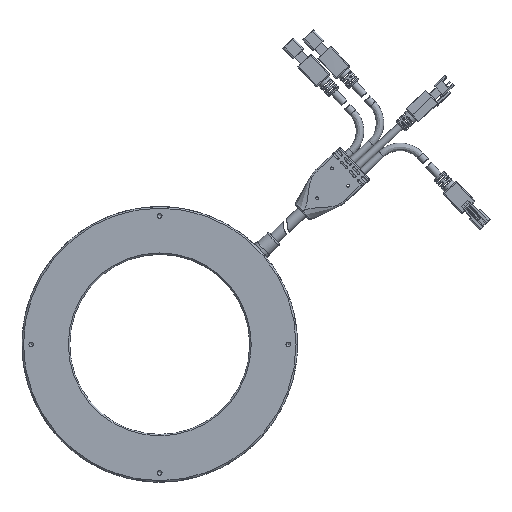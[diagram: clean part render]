
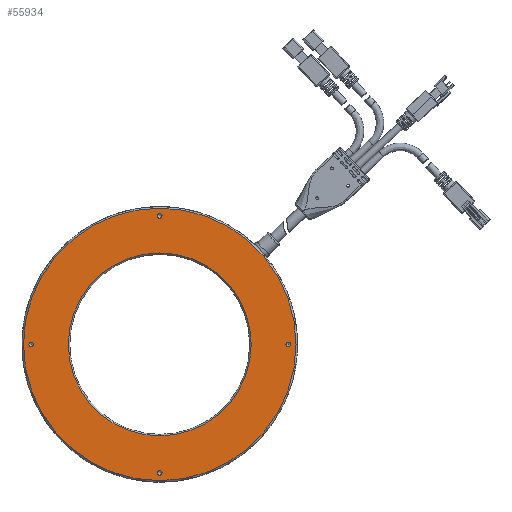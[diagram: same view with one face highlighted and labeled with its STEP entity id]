
A CAD part, front view. The second image highlights one B-rep face of the part: STEP entity #55934.
In plain terms, the highlighted planar face has unit normal (0, -1, 0).
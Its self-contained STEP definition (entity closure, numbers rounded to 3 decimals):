
#693 = EDGE_CURVE ( 'NONE', #61860, #61860, #21669, .T. ) ;
#1366 = CARTESIAN_POINT ( 'NONE',  ( 0., -2.106, 70. ) ) ;
#1378 = CARTESIAN_POINT ( 'NONE',  ( 0., -2.106, 74.2 ) ) ;
#1472 = AXIS2_PLACEMENT_3D ( 'NONE', #38636, #18361, #43281 ) ;
#1785 = ORIENTED_EDGE ( 'NONE', *, *, #56272, .F. ) ;
#2494 = DIRECTION ( 'NONE',  ( 0., 0., 1. ) ) ;
#3828 = DIRECTION ( 'NONE',  ( 0., 0., 1. ) ) ;
#3969 = CARTESIAN_POINT ( 'NONE',  ( -70., -2.106, 0. ) ) ;
#5893 = AXIS2_PLACEMENT_3D ( 'NONE', #7806, #17547, #2494 ) ;
#6484 = DIRECTION ( 'NONE',  ( 0., 0., -1. ) ) ;
#7806 = CARTESIAN_POINT ( 'NONE',  ( 0., -2.106, 0. ) ) ;
#7991 = VERTEX_POINT ( 'NONE', #1378 ) ;
#9521 = VERTEX_POINT ( 'NONE', #42461 ) ;
#9920 = DIRECTION ( 'NONE',  ( 0., -1., 0. ) ) ;
#10371 = AXIS2_PLACEMENT_3D ( 'NONE', #19661, #9920, #49464 ) ;
#11687 = EDGE_LOOP ( 'NONE', ( #18193 ) ) ;
#13071 = DIRECTION ( 'NONE',  ( 0., -1., 0. ) ) ;
#15178 = EDGE_LOOP ( 'NONE', ( #31815 ) ) ;
#15848 = AXIS2_PLACEMENT_3D ( 'NONE', #1366, #36738, #6484 ) ;
#17547 = DIRECTION ( 'NONE',  ( 0., 1., 0. ) ) ;
#17999 = ORIENTED_EDGE ( 'NONE', *, *, #32554, .F. ) ;
#18193 = ORIENTED_EDGE ( 'NONE', *, *, #34222, .T. ) ;
#18361 = DIRECTION ( 'NONE',  ( 0., -1., 0. ) ) ;
#18543 = EDGE_LOOP ( 'NONE', ( #1785 ) ) ;
#18618 = DIRECTION ( 'NONE',  ( 0., -1., 0. ) ) ;
#18749 = AXIS2_PLACEMENT_3D ( 'NONE', #54044, #38982, #3828 ) ;
#19508 = CIRCLE ( 'NONE', #5893, 49.8 ) ;
#19661 = CARTESIAN_POINT ( 'NONE',  ( 0., -2.106, 0. ) ) ;
#21669 = CIRCLE ( 'NONE', #44052, 1.25 ) ;
#22183 = ORIENTED_EDGE ( 'NONE', *, *, #39392, .T. ) ;
#23406 = CIRCLE ( 'NONE', #15848, 1.25 ) ;
#24007 = PLANE ( 'NONE',  #18749 ) ;
#25804 = AXIS2_PLACEMENT_3D ( 'NONE', #43305, #13071, #48407 ) ;
#27402 = FACE_BOUND ( 'NONE', #46505, .T. ) ;
#29295 = VERTEX_POINT ( 'NONE', #32994 ) ;
#31815 = ORIENTED_EDGE ( 'NONE', *, *, #693, .F. ) ;
#32311 = EDGE_LOOP ( 'NONE', ( #17999 ) ) ;
#32554 = EDGE_CURVE ( 'NONE', #36437, #36437, #55272, .T. ) ;
#32994 = CARTESIAN_POINT ( 'NONE',  ( 0., -2.106, 68.75 ) ) ;
#34222 = EDGE_CURVE ( 'NONE', #47508, #47508, #19508, .T. ) ;
#34277 = DIRECTION ( 'NONE',  ( 0., 0., -1. ) ) ;
#36437 = VERTEX_POINT ( 'NONE', #56641 ) ;
#36738 = DIRECTION ( 'NONE',  ( 0., -1., 0. ) ) ;
#37626 = FACE_BOUND ( 'NONE', #15178, .T. ) ;
#38597 = EDGE_LOOP ( 'NONE', ( #22183 ) ) ;
#38636 = CARTESIAN_POINT ( 'NONE',  ( 70., -2.106, 0. ) ) ;
#38982 = DIRECTION ( 'NONE',  ( 0., 1., 0. ) ) ;
#39175 = FACE_BOUND ( 'NONE', #18543, .T. ) ;
#39392 = EDGE_CURVE ( 'NONE', #7991, #7991, #53542, .T. ) ;
#42461 = CARTESIAN_POINT ( 'NONE',  ( 70., -2.106, -1.25 ) ) ;
#43281 = DIRECTION ( 'NONE',  ( 0., 0., -1. ) ) ;
#43305 = CARTESIAN_POINT ( 'NONE',  ( 0., -2.106, -70. ) ) ;
#44052 = AXIS2_PLACEMENT_3D ( 'NONE', #3969, #18618, #34277 ) ;
#46307 = FACE_BOUND ( 'NONE', #32311, .T. ) ;
#46505 = EDGE_LOOP ( 'NONE', ( #58159 ) ) ;
#47508 = VERTEX_POINT ( 'NONE', #61560 ) ;
#48319 = CIRCLE ( 'NONE', #1472, 1.25 ) ;
#48407 = DIRECTION ( 'NONE',  ( 0., 0., -1. ) ) ;
#49464 = DIRECTION ( 'NONE',  ( 0., 0., 1. ) ) ;
#50692 = CARTESIAN_POINT ( 'NONE',  ( -70., -2.106, -1.25 ) ) ;
#53542 = CIRCLE ( 'NONE', #10371, 74.2 ) ;
#54044 = CARTESIAN_POINT ( 'NONE',  ( 0., -2.106, 0. ) ) ;
#55272 = CIRCLE ( 'NONE', #25804, 1.25 ) ;
#55934 = ADVANCED_FACE ( 'NONE', ( #27402, #39175, #37626, #59775, #64559, #46307 ), #24007, .F. ) ;
#56272 = EDGE_CURVE ( 'NONE', #29295, #29295, #23406, .T. ) ;
#56641 = CARTESIAN_POINT ( 'NONE',  ( 0., -2.106, -71.25 ) ) ;
#58159 = ORIENTED_EDGE ( 'NONE', *, *, #59080, .F. ) ;
#59080 = EDGE_CURVE ( 'NONE', #9521, #9521, #48319, .T. ) ;
#59775 = FACE_BOUND ( 'NONE', #11687, .T. ) ;
#61560 = CARTESIAN_POINT ( 'NONE',  ( 0., -2.106, 49.8 ) ) ;
#61860 = VERTEX_POINT ( 'NONE', #50692 ) ;
#64559 = FACE_OUTER_BOUND ( 'NONE', #38597, .T. ) ;
